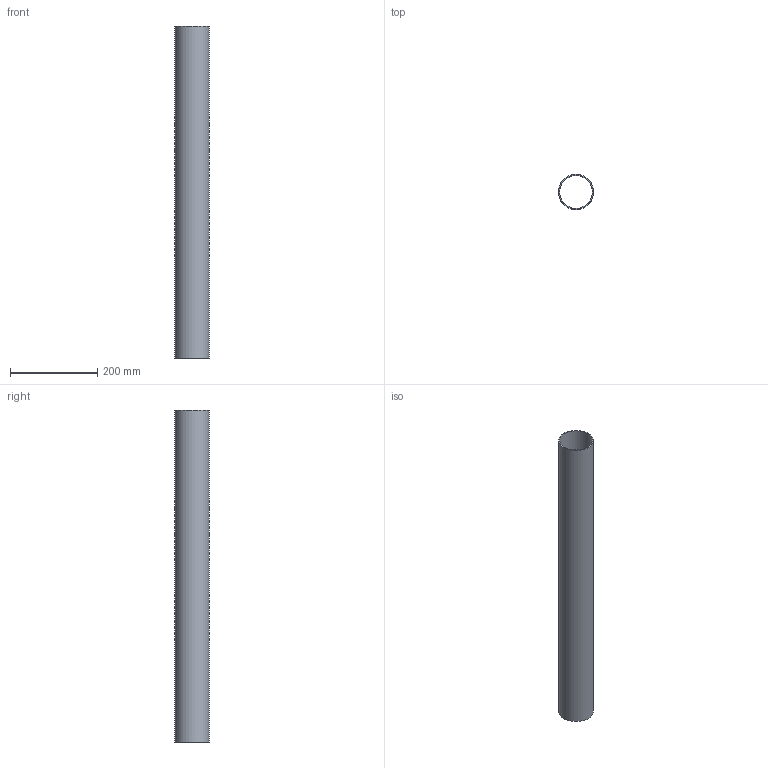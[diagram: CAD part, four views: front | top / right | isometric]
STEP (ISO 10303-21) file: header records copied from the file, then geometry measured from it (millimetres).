
FILE_DESCRIPTION(/* description */ ('STEP AP242 Edition 2','CAx-IF Rec.Pracs.---Representation and Presentation of Product Manufacturing Information (PMI)---4.0---2014-10-13','CAx-IF Rec.Pracs.---3D Tessellated Geometry---0.4---2014-09-14','2;1','CAx-IF Rec.Pracs.---User Defined Attributes---1.5---2016-08-15'),/* implementation_level */ '2;1');
FILE_NAME(/* name */ '695afeebd13f1a0233889446',/* time_stamp */ '2026-01-04T23:59:39Z',/* author */ (''),/* organization */ (''),/* preprocessor_version */ 'ST-DEVELOPER v20',/* originating_system */ 'ONSHAPE BY PTC INC, 1.208',/* authorisation */ ' ');
FILE_SCHEMA (('AP242_MANAGED_MODEL_BASED_3D_ENGINEERING_MIM_LF { 1 0 10303 442 3 1 4 }'));
Length unit declared in the file: metre
Products named in the file (1): Part 1
Bounding box: 80 x 80 x 762 mm (x, y, z)
Volume: 373447.4 mm3; surface area: 374427.6 mm2
Topology: 1 solids, 1 shells, 4 faces, 6 edges, 4 vertices
Faces by surface type: cylinder 2, plane 2
Full cylindrical faces by diameter (mm): 76 x1, 80 x1
Entity records: 112 total; most frequent: DIRECTION 18, CARTESIAN_POINT 13, AXIS2_PLACEMENT_3D 9, ORIENTED_EDGE 8, EDGE_LOOP 8, FACE_BOUND 8, EDGE_CURVE 4, VERTEX_POINT 4
